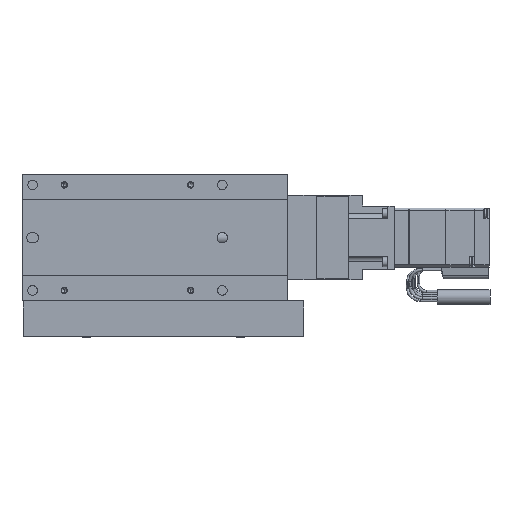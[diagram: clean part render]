
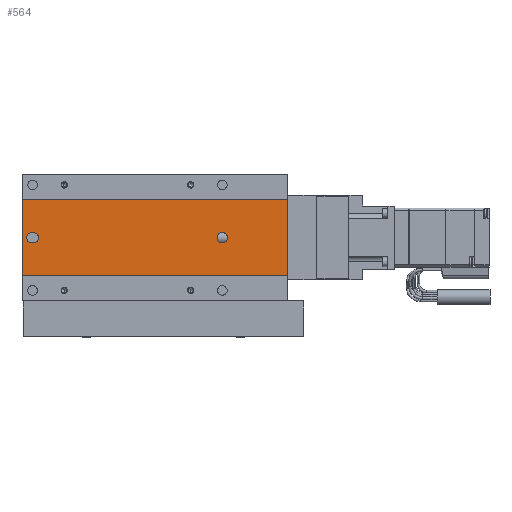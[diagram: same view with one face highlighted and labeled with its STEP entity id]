
A CAD part, front view. The second image highlights one B-rep face of the part: STEP entity #564.
In plain terms, the highlighted planar face has unit normal (0, -1, 0).
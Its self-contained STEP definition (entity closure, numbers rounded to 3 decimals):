
#564=ADVANCED_FACE('',(#1566,#1567,#1568),#1569,.F.);
#1566=FACE_BOUND('',#3091,.T.);
#1567=FACE_OUTER_BOUND('',#3092,.T.);
#1568=FACE_BOUND('',#3093,.T.);
#1569=PLANE('',#3094);
#3091=EDGE_LOOP('',(#6030,#6031,#6032,#6033));
#3092=EDGE_LOOP('',(#6034,#6035,#6036,#6037));
#3093=EDGE_LOOP('',(#6038,#6039,#6040));
#3094=AXIS2_PLACEMENT_3D('',#6041,#6042,#6043);
#6030=ORIENTED_EDGE('',*,*,#10600,.F.);
#6031=ORIENTED_EDGE('',*,*,#10601,.F.);
#6032=ORIENTED_EDGE('',*,*,#10602,.F.);
#6033=ORIENTED_EDGE('',*,*,#10603,.F.);
#6034=ORIENTED_EDGE('',*,*,#10585,.T.);
#6035=ORIENTED_EDGE('',*,*,#10604,.F.);
#6036=ORIENTED_EDGE('',*,*,#10605,.F.);
#6037=ORIENTED_EDGE('',*,*,#10606,.T.);
#6038=ORIENTED_EDGE('',*,*,#10485,.F.);
#6039=ORIENTED_EDGE('',*,*,#10484,.F.);
#6040=ORIENTED_EDGE('',*,*,#10607,.F.);
#6041=CARTESIAN_POINT('',(76.0,0.3,18.1));
#6042=DIRECTION('',(0.0,1.0,0.));
#6043=DIRECTION('',(1.0,0.0,0.0));
#10484=EDGE_CURVE('',#12683,#12685,#12686,.F.);
#10485=EDGE_CURVE('',#12685,#12679,#12687,.F.);
#10585=EDGE_CURVE('',#12874,#12872,#12875,.T.);
#10600=EDGE_CURVE('',#12902,#12903,#12904,.F.);
#10601=EDGE_CURVE('',#12905,#12902,#12906,.T.);
#10602=EDGE_CURVE('',#12907,#12905,#12908,.F.);
#10603=EDGE_CURVE('',#12903,#12907,#12909,.T.);
#10604=EDGE_CURVE('',#12910,#12872,#12911,.T.);
#10605=EDGE_CURVE('',#12912,#12910,#12913,.T.);
#10606=EDGE_CURVE('',#12912,#12874,#12914,.T.);
#10607=EDGE_CURVE('',#12679,#12683,#12915,.F.);
#12679=VERTEX_POINT('',#16055);
#12683=VERTEX_POINT('',#16060);
#12685=VERTEX_POINT('',#16063);
#12686=CIRCLE('',#16064,2.5);
#12687=CIRCLE('',#16065,2.5);
#12872=VERTEX_POINT('',#16306);
#12874=VERTEX_POINT('',#16309);
#12875=LINE('',#16310,#16311);
#12902=VERTEX_POINT('',#16351);
#12903=VERTEX_POINT('',#16352);
#12904=CIRCLE('',#16353,2.5);
#12905=VERTEX_POINT('',#16354);
#12906=LINE('',#16355,#16356);
#12907=VERTEX_POINT('',#16357);
#12908=CIRCLE('',#16358,2.5);
#12909=LINE('',#16359,#16360);
#12910=VERTEX_POINT('',#16361);
#12911=LINE('',#16362,#16363);
#12912=VERTEX_POINT('',#16364);
#12913=LINE('',#16365,#16366);
#12914=LINE('',#16367,#16368);
#12915=CIRCLE('',#16369,2.5);
#16055=CARTESIAN_POINT('',(42.5,0.3,0.));
#16060=CARTESIAN_POINT('',(47.5,0.3,0.));
#16063=CARTESIAN_POINT('',(45.0,0.3,2.5));
#16064=AXIS2_PLACEMENT_3D('',#20227,#20228,#20229);
#16065=AXIS2_PLACEMENT_3D('',#20230,#20231,#20232);
#16306=CARTESIAN_POINT('',(-50.0,0.3,-18.1));
#16309=CARTESIAN_POINT('',(-50.0,0.3,18.1));
#16310=CARTESIAN_POINT('',(-50.0,0.3,18.1));
#16311=VECTOR('',#20416,1000.0);
#16351=CARTESIAN_POINT('',(-45.25,0.3,2.5));
#16352=CARTESIAN_POINT('',(-45.25,0.3,-2.5));
#16353=AXIS2_PLACEMENT_3D('',#20433,#20434,#20435);
#16354=CARTESIAN_POINT('',(-44.75,0.3,2.5));
#16355=CARTESIAN_POINT('',(76.0,0.3,2.5));
#16356=VECTOR('',#20436,1000.0);
#16357=CARTESIAN_POINT('',(-44.75,0.3,-2.5));
#16358=AXIS2_PLACEMENT_3D('',#20437,#20438,#20439);
#16359=CARTESIAN_POINT('',(76.0,0.3,-2.5));
#16360=VECTOR('',#20440,1000.0);
#16361=CARTESIAN_POINT('',(76.0,0.3,-18.1));
#16362=CARTESIAN_POINT('',(76.0,0.3,-18.1));
#16363=VECTOR('',#20441,1000.0);
#16364=CARTESIAN_POINT('',(76.0,0.3,18.1));
#16365=CARTESIAN_POINT('',(76.0,0.3,18.1));
#16366=VECTOR('',#20442,1000.0);
#16367=CARTESIAN_POINT('',(76.0,0.3,18.1));
#16368=VECTOR('',#20443,1000.0);
#16369=AXIS2_PLACEMENT_3D('',#20444,#20445,#20446);
#20227=CARTESIAN_POINT('',(45.0,0.3,0.0));
#20228=DIRECTION('',(0.0,1.0,0.));
#20229=DIRECTION('',(0.0,0.,1.0));
#20230=CARTESIAN_POINT('',(45.0,0.3,0.0));
#20231=DIRECTION('',(0.0,1.0,0.));
#20232=DIRECTION('',(0.0,0.,1.0));
#20416=DIRECTION('',(0.0,0.,-1.0));
#20433=CARTESIAN_POINT('',(-45.25,0.3,0.));
#20434=DIRECTION('',(0.0,1.0,0.));
#20435=DIRECTION('',(0.0,0.,1.0));
#20436=DIRECTION('',(-1.0,0.0,0.0));
#20437=CARTESIAN_POINT('',(-44.75,0.3,0.));
#20438=DIRECTION('',(0.0,1.0,0.));
#20439=DIRECTION('',(0.0,0.,1.0));
#20440=DIRECTION('',(1.0,0.0,0.0));
#20441=DIRECTION('',(-1.0,0.0,0.0));
#20442=DIRECTION('',(0.0,0.,-1.0));
#20443=DIRECTION('',(-1.0,0.0,0.0));
#20444=CARTESIAN_POINT('',(45.0,0.3,0.0));
#20445=DIRECTION('',(0.0,1.0,0.));
#20446=DIRECTION('',(0.0,0.,1.0));
